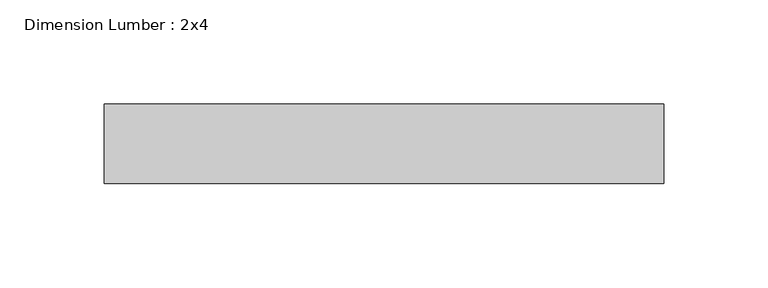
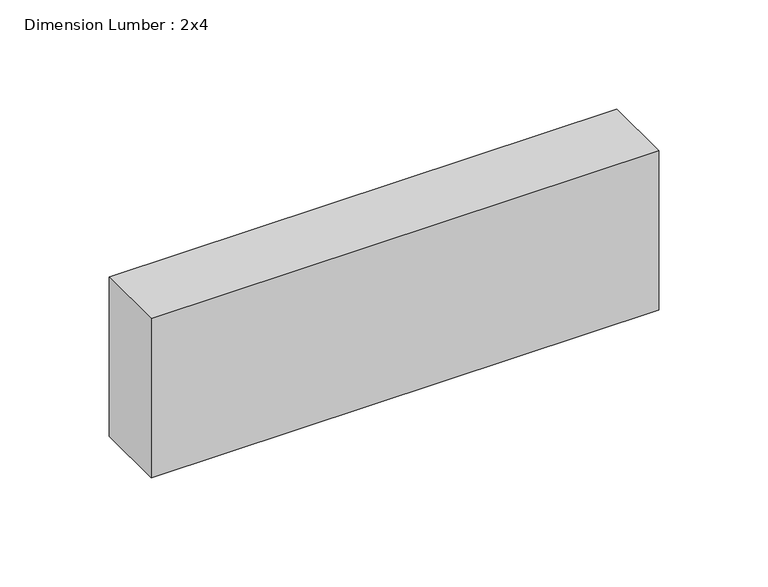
"""IFC4 building model written with IfcOpenShell, lengths in millimetres: beam geometry, Dimension Lumber : 2x4."""

from ifc_helpers import new_model, si_unit, frame, origin, place, context, project, spatial, polyline, outline, extrude, source, transform, mapped, element, save


def dimension_lumber_2x4_bfb2de1c(model_context):
    return source(origin(), model_context, "Body", "SweptSolid", [
        extrude(outline(polyline([(133.991694, 19.05), (133.991694, -19.05), (-133.991694, -19.05), (-133.991694, 19.05), (133.991694, 19.05)])), frame((0.0, 0.0, -44.45), z_axis=(0.0, 0.0, 1.0), x_axis=(1.0, 0.0, 0.0)), (0.0, 0.0, 1.0), 88.9),
    ])


if __name__ == "__main__":
    model = new_model("IFC4")
    model_context = context("Model", 3, world=origin())
    ifc_project = project(units=[si_unit("LENGTHUNIT", "METRE", prefix="MILLI")], contexts=[model_context])
    site = spatial("IfcSite", under=ifc_project)
    building = spatial("IfcBuilding", under=site)
    placement = place(None, origin())
    dimension_lumber_2x4_shape = dimension_lumber_2x4_bfb2de1c(model_context)
    element("IfcBeam", 1, ObjectType="Dimension Lumber : 2x4", at=placement, inside=building, context=model_context, shape_type="MappedRepresentation", body=[
        mapped(dimension_lumber_2x4_shape, transform((0.0, 0.0, 0.0), x_axis=(1.0, 0.0, 0.0), y_axis=(0.0, 1.0, 0.0), z_axis=(0.0, 0.0, 1.0))),
    ])
    save(model, "model.ifc")
